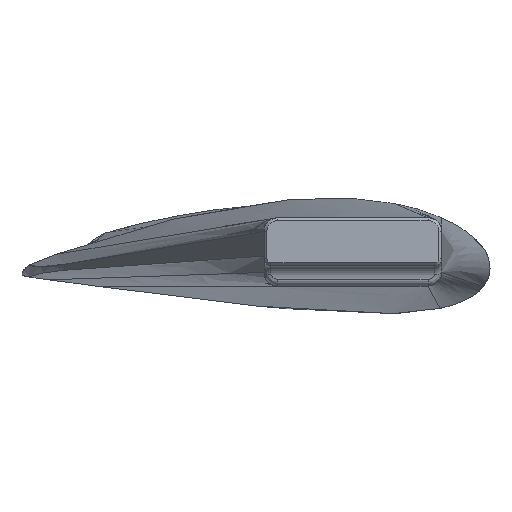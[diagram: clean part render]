
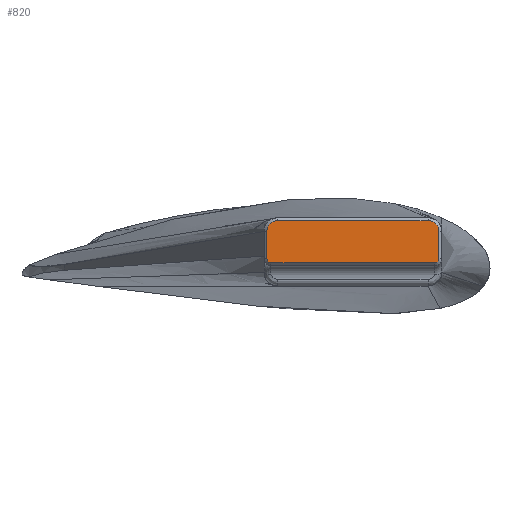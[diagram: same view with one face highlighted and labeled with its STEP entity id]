
A CAD part, left-side view. The second image highlights one B-rep face of the part: STEP entity #820.
In plain terms, the highlighted planar face has unit normal (-1, 0, 0).
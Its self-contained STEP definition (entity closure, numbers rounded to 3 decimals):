
#411=CARTESIAN_POINT('',(-660.0,163.,10.784));
#412=VERTEX_POINT('',#411);
#419=CARTESIAN_POINT('',(-660.0,163.0,30.784));
#420=VERTEX_POINT('',#419);
#421=CARTESIAN_POINT('',(-660.0,163.,10.784));
#422=DIRECTION('',(0.0,0.0,1.0));
#423=VECTOR('',#422,20.);
#424=LINE('',#421,#423);
#425=EDGE_CURVE('',#412,#420,#424,.T.);
#459=CARTESIAN_POINT('',(-660.0,160.,7.784));
#460=VERTEX_POINT('',#459);
#467=CARTESIAN_POINT('',(-660.0,160.0,10.784));
#468=DIRECTION('',(1.0,0.0,0.0));
#469=DIRECTION('',(0.0,0.707,-0.707));
#470=AXIS2_PLACEMENT_3D('',#467,#468,#469);
#471=CIRCLE('',#470,3.);
#472=EDGE_CURVE('',#460,#412,#471,.T.);
#484=CARTESIAN_POINT('',(-660.0,40.,7.784));
#485=VERTEX_POINT('',#484);
#492=CARTESIAN_POINT('',(-660.0,40.,7.784));
#493=DIRECTION('',(0.0,1.0,0.0));
#494=VECTOR('',#493,120.);
#495=LINE('',#492,#494);
#496=EDGE_CURVE('',#485,#460,#495,.T.);
#523=CARTESIAN_POINT('',(-660.0,37.,10.784));
#524=VERTEX_POINT('',#523);
#531=CARTESIAN_POINT('',(-660.0,40.,10.784));
#532=DIRECTION('',(1.0,0.0,0.0));
#533=DIRECTION('',(0.0,-0.707,-0.707));
#534=AXIS2_PLACEMENT_3D('',#531,#532,#533);
#535=CIRCLE('',#534,3.);
#536=EDGE_CURVE('',#524,#485,#535,.T.);
#548=CARTESIAN_POINT('',(-660.0,37.,30.784));
#549=VERTEX_POINT('',#548);
#556=CARTESIAN_POINT('',(-660.0,37.,30.784));
#557=DIRECTION('',(0.0,0.0,-1.0));
#558=VECTOR('',#557,20.);
#559=LINE('',#556,#558);
#560=EDGE_CURVE('',#549,#524,#559,.T.);
#577=CARTESIAN_POINT('',(-660.0,45.,38.784));
#578=VERTEX_POINT('',#577);
#585=CARTESIAN_POINT('',(-660.0,45.0,30.784));
#586=DIRECTION('',(1.0,0.0,0.0));
#587=DIRECTION('',(0.0,-1.0,0.0));
#588=AXIS2_PLACEMENT_3D('',#585,#586,#587);
#589=CIRCLE('',#588,8.);
#590=EDGE_CURVE('',#578,#549,#589,.T.);
#608=CARTESIAN_POINT('',(-660.0,155.,38.784));
#609=VERTEX_POINT('',#608);
#616=CARTESIAN_POINT('',(-660.0,155.0,38.784));
#617=DIRECTION('',(0.0,-1.0,0.0));
#618=VECTOR('',#617,110.0);
#619=LINE('',#616,#618);
#620=EDGE_CURVE('',#609,#578,#619,.T.);
#633=CARTESIAN_POINT('',(-660.0,155.0,30.784));
#634=DIRECTION('',(1.0,0.0,0.0));
#635=DIRECTION('',(0.0,0.0,1.0));
#636=AXIS2_PLACEMENT_3D('',#633,#634,#635);
#637=CIRCLE('',#636,8.);
#638=EDGE_CURVE('',#420,#609,#637,.T.);
#805=CARTESIAN_POINT('',(-660.0,100.,15.784));
#806=DIRECTION('',(1.0,0.0,0.0));
#807=DIRECTION('',(0.0,0.0,-1.0));
#808=AXIS2_PLACEMENT_3D('',#805,#806,#807);
#809=PLANE('',#808);
#810=ORIENTED_EDGE('',*,*,#425,.F.);
#811=ORIENTED_EDGE('',*,*,#472,.F.);
#812=ORIENTED_EDGE('',*,*,#496,.F.);
#813=ORIENTED_EDGE('',*,*,#536,.F.);
#814=ORIENTED_EDGE('',*,*,#560,.F.);
#815=ORIENTED_EDGE('',*,*,#590,.F.);
#816=ORIENTED_EDGE('',*,*,#620,.F.);
#817=ORIENTED_EDGE('',*,*,#638,.F.);
#818=EDGE_LOOP('',(#810,#811,#812,#813,#814,#815,#816,#817));
#819=FACE_OUTER_BOUND('',#818,.T.);
#820=ADVANCED_FACE('',(#819),#809,.F.);
